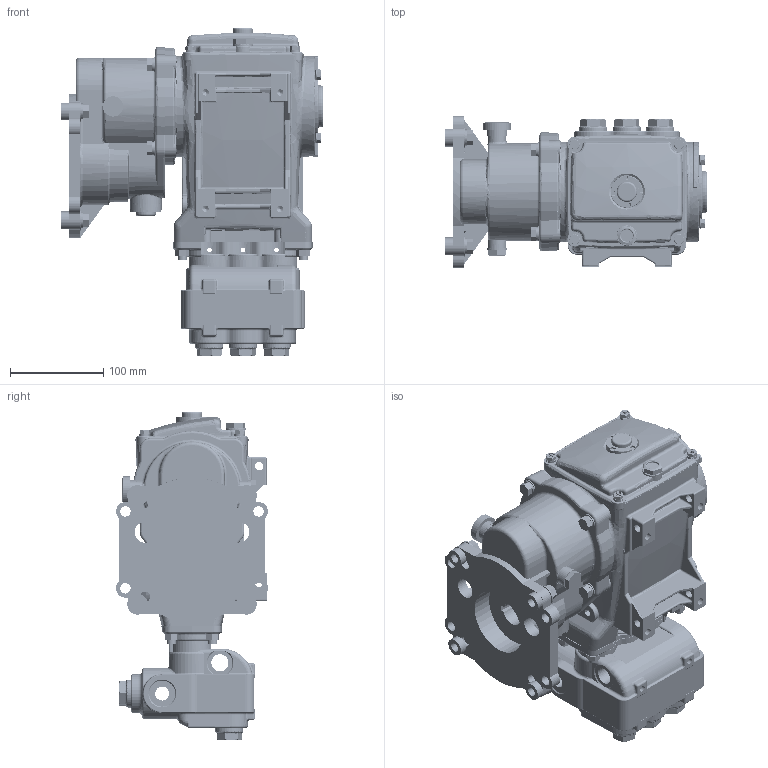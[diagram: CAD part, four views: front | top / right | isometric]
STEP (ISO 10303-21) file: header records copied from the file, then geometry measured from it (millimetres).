
FILE_DESCRIPTION (( 'STEP AP214' ), '1' );
FILE_NAME ('56 G1.STEP', '2013-01-21T10:58:41', ( '' ), ( '' ), 'SwSTEP 2.0', 'SolidWorks 2012', '' );
FILE_SCHEMA (( 'AUTOMOTIVE_DESIGN' ));
Length unit declared in the file: millimetre
Products named in the file (1): 56 G1
Bounding box: 281.08 x 163.05 x 352.3 mm (x, y, z)
Volume: 3664975.2 mm3; surface area: 585299 mm2
Topology: 1 solids, 54 shells, 4786 faces, 11968 edges, 7462 vertices
Faces by surface type: plane 1938, cylinder 1225, bspline 776, torus 444, cone 346, sphere 57
Entity records: 223326 total; most frequent: CARTESIAN_POINT 74386, ORIENTED_EDGE 23770, DIRECTION 21433, EDGE_CURVE 11885, AXIS2_PLACEMENT_3D 7907, VERTEX_POINT 7460, LINE 5619, VECTOR 5619
